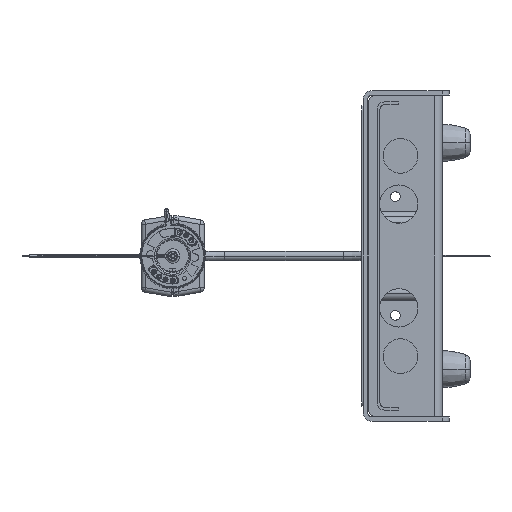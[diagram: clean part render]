
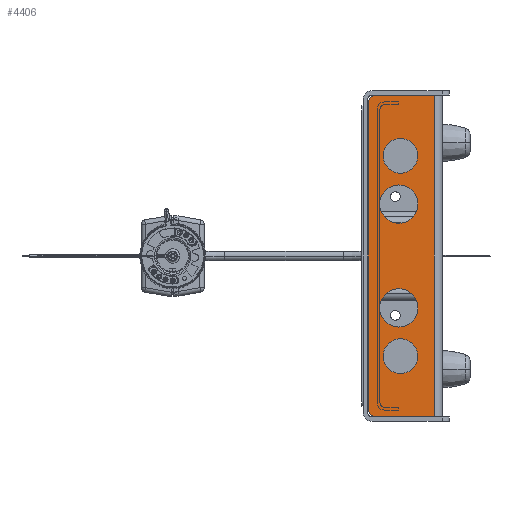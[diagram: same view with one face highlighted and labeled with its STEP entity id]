
A CAD part, left-side view. The second image highlights one B-rep face of the part: STEP entity #4406.
In plain terms, the highlighted planar face has unit normal (-1, 0, 0).
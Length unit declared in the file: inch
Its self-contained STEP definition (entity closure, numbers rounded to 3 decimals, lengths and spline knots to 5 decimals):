
#2149=CARTESIAN_POINT('',(0.952,0.272,0.7));
#2150=DIRECTION('',(1.,0.,0.));
#2151=DIRECTION('',(0.,0.,-1.));
#2152=AXIS2_PLACEMENT_3D('',#2149,#2150,#2151);
#2157=CARTESIAN_POINT('',(0.952,0.272,0.7));
#2158=DIRECTION('',(1.,0.,0.));
#2159=DIRECTION('',(0.,0.,1.));
#2160=AXIS2_PLACEMENT_3D('',#2157,#2158,#2159);
#2165=CARTESIAN_POINT('',(0.952,0.25,1.35));
#2166=DIRECTION('',(1.,0.,0.));
#2167=DIRECTION('',(0.,0.,-1.));
#2168=AXIS2_PLACEMENT_3D('',#2165,#2166,#2167);
#2173=CARTESIAN_POINT('',(0.952,0.25,1.35));
#2174=DIRECTION('',(1.,0.,0.));
#2175=DIRECTION('',(0.,0.,1.));
#2176=AXIS2_PLACEMENT_3D('',#2173,#2174,#2175);
#2181=CARTESIAN_POINT('',(0.952,0.272,-0.7));
#2182=DIRECTION('',(-1.,0.,0.));
#2183=DIRECTION('',(0.,0.,1.));
#2184=AXIS2_PLACEMENT_3D('',#2181,#2182,#2183);
#2189=CARTESIAN_POINT('',(0.952,0.272,-0.7));
#2190=DIRECTION('',(-1.,0.,0.));
#2191=DIRECTION('',(0.,0.,-1.));
#2192=AXIS2_PLACEMENT_3D('',#2189,#2190,#2191);
#2197=CARTESIAN_POINT('',(0.952,0.25,-1.35));
#2198=DIRECTION('',(-1.,0.,0.));
#2199=DIRECTION('',(0.,0.,1.));
#2200=AXIS2_PLACEMENT_3D('',#2197,#2198,#2199);
#2205=CARTESIAN_POINT('',(0.952,0.25,-1.35));
#2206=DIRECTION('',(-1.,0.,0.));
#2207=DIRECTION('',(0.,0.,-1.));
#2208=AXIS2_PLACEMENT_3D('',#2205,#2206,#2207);
#2312=DIRECTION('',(0.,0.,-1.));
#2313=VECTOR('',#2312,4.128);
#2314=CARTESIAN_POINT('',(0.952,0.682,2.064));
#2315=LINE('',#2314,#2313);
#2348=CARTESIAN_POINT('',(0.952,0.588,-2.064));
#2349=DIRECTION('',(1.,0.,0.));
#2350=DIRECTION('',(0.,0.,-1.));
#2351=AXIS2_PLACEMENT_3D('',#2348,#2349,#2350);
#2385=DIRECTION('',(0.,-1.,0.));
#2386=VECTOR('',#2385,0.791);
#2387=CARTESIAN_POINT('',(0.952,0.588,-2.158));
#2388=LINE('',#2387,#2386);
#3548=DIRECTION('',(0.,-1.,0.));
#3549=VECTOR('',#3548,0.791);
#3550=CARTESIAN_POINT('',(0.952,0.588,2.158));
#3551=LINE('',#3550,#3549);
#3850=DIRECTION('',(0.,0.,1.));
#3851=VECTOR('',#3850,4.316);
#3852=CARTESIAN_POINT('',(0.952,-0.203,-2.158));
#3853=LINE('',#3852,#3851);
#3864=CARTESIAN_POINT('',(0.952,0.588,2.064));
#3865=DIRECTION('',(-1.,0.,0.));
#3866=DIRECTION('',(0.,0.,1.));
#3867=AXIS2_PLACEMENT_3D('',#3864,#3865,#3866);
#4027=CARTESIAN_POINT('',(0.952,-0.203,2.158));
#4029=VERTEX_POINT('',#4027);
#4043=CARTESIAN_POINT('',(0.952,0.272,0.442));
#4044=CARTESIAN_POINT('',(0.952,0.272,0.958));
#4045=VERTEX_POINT('',#4043);
#4046=VERTEX_POINT('',#4044);
#4047=CARTESIAN_POINT('',(0.952,0.25,1.116));
#4048=CARTESIAN_POINT('',(0.952,0.25,1.584));
#4049=VERTEX_POINT('',#4047);
#4050=VERTEX_POINT('',#4048);
#4164=CARTESIAN_POINT('',(0.952,0.588,2.158));
#4166=VERTEX_POINT('',#4164);
#4168=CARTESIAN_POINT('',(0.952,0.682,2.064));
#4170=VERTEX_POINT('',#4168);
#4187=CARTESIAN_POINT('',(0.952,-0.203,-2.158));
#4189=VERTEX_POINT('',#4187);
#4203=CARTESIAN_POINT('',(0.952,0.272,-0.442));
#4204=CARTESIAN_POINT('',(0.952,0.272,-0.958));
#4205=VERTEX_POINT('',#4203);
#4206=VERTEX_POINT('',#4204);
#4207=CARTESIAN_POINT('',(0.952,0.25,-1.116));
#4208=CARTESIAN_POINT('',(0.952,0.25,-1.584));
#4209=VERTEX_POINT('',#4207);
#4210=VERTEX_POINT('',#4208);
#4324=CARTESIAN_POINT('',(0.952,0.588,-2.158));
#4326=VERTEX_POINT('',#4324);
#4328=CARTESIAN_POINT('',(0.952,0.682,-2.064));
#4330=VERTEX_POINT('',#4328);
#4363=CARTESIAN_POINT('',(0.952,0.682,0.));
#4364=DIRECTION('',(-1.,0.,0.));
#4365=DIRECTION('',(0.,-1.,0.));
#4366=AXIS2_PLACEMENT_3D('',#4363,#4364,#4365);
#4367=PLANE('',#4366);
#4369=ORIENTED_EDGE('',*,*,#4368,.F.);
#4371=ORIENTED_EDGE('',*,*,#4370,.F.);
#4373=ORIENTED_EDGE('',*,*,#4372,.T.);
#4375=ORIENTED_EDGE('',*,*,#4374,.F.);
#4377=ORIENTED_EDGE('',*,*,#4376,.F.);
#4379=ORIENTED_EDGE('',*,*,#4378,.T.);
#4380=EDGE_LOOP('',(#4369,#4371,#4373,#4375,#4377,#4379));
#4381=FACE_OUTER_BOUND('',#4380,.F.);
#4383=ORIENTED_EDGE('',*,*,#4382,.F.);
#4385=ORIENTED_EDGE('',*,*,#4384,.F.);
#4386=EDGE_LOOP('',(#4383,#4385));
#4387=FACE_BOUND('',#4386,.F.);
#4389=ORIENTED_EDGE('',*,*,#4388,.F.);
#4391=ORIENTED_EDGE('',*,*,#4390,.F.);
#4392=EDGE_LOOP('',(#4389,#4391));
#4393=FACE_BOUND('',#4392,.F.);
#4395=ORIENTED_EDGE('',*,*,#4394,.T.);
#4397=ORIENTED_EDGE('',*,*,#4396,.T.);
#4398=EDGE_LOOP('',(#4395,#4397));
#4399=FACE_BOUND('',#4398,.F.);
#4401=ORIENTED_EDGE('',*,*,#4400,.T.);
#4403=ORIENTED_EDGE('',*,*,#4402,.T.);
#4404=EDGE_LOOP('',(#4401,#4403));
#4405=FACE_BOUND('',#4404,.F.);
#4406=ADVANCED_FACE('',(#4381,#4387,#4393,#4399,#4405),#4367,.T.);
#2153=CIRCLE('',#2152,0.258);
#2161=CIRCLE('',#2160,0.258);
#2169=CIRCLE('',#2168,0.234);
#2177=CIRCLE('',#2176,0.234);
#2185=CIRCLE('',#2184,0.258);
#2193=CIRCLE('',#2192,0.258);
#2201=CIRCLE('',#2200,0.234);
#2209=CIRCLE('',#2208,0.234);
#2352=CIRCLE('',#2351,0.094);
#3868=CIRCLE('',#3867,0.094);
#4368=EDGE_CURVE('',#4189,#4029,#3853,.T.);
#4370=EDGE_CURVE('',#4326,#4189,#2388,.T.);
#4372=EDGE_CURVE('',#4326,#4330,#2352,.T.);
#4374=EDGE_CURVE('',#4170,#4330,#2315,.T.);
#4376=EDGE_CURVE('',#4166,#4170,#3868,.T.);
#4378=EDGE_CURVE('',#4166,#4029,#3551,.T.);
#4382=EDGE_CURVE('',#4049,#4050,#2169,.T.);
#4384=EDGE_CURVE('',#4050,#4049,#2177,.T.);
#4388=EDGE_CURVE('',#4045,#4046,#2153,.T.);
#4390=EDGE_CURVE('',#4046,#4045,#2161,.T.);
#4394=EDGE_CURVE('',#4205,#4206,#2185,.T.);
#4396=EDGE_CURVE('',#4206,#4205,#2193,.T.);
#4400=EDGE_CURVE('',#4209,#4210,#2201,.T.);
#4402=EDGE_CURVE('',#4210,#4209,#2209,.T.);
